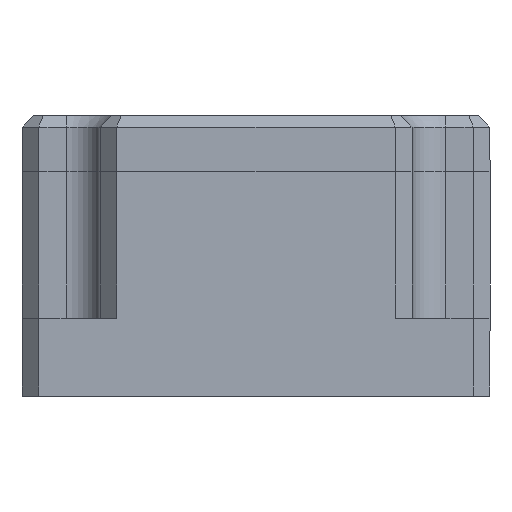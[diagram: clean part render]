
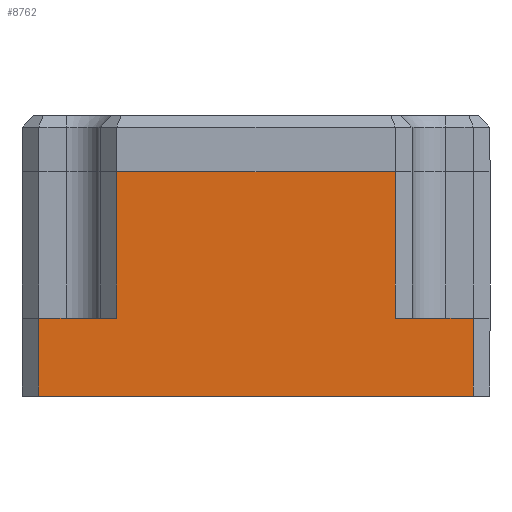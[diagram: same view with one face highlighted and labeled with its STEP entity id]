
A CAD part, left-side view. The second image highlights one B-rep face of the part: STEP entity #8762.
In plain terms, the highlighted planar face has unit normal (-1, 0, 0) as drawn and (1, 0, 0) by its records, which use the part's own axes.
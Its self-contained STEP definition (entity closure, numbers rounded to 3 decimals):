
#127 = LINE ( 'NONE', #4457, #1010 ) ;
#513 = AXIS2_PLACEMENT_3D ( 'NONE', #7181, #1451, #4419 ) ;
#556 = DIRECTION ( 'NONE',  ( 0., 1., 0. ) ) ;
#588 = PLANE ( 'NONE',  #513 ) ;
#683 = EDGE_CURVE ( 'NONE', #5354, #10595, #5945, .T. ) ;
#878 = CARTESIAN_POINT ( 'NONE',  ( 25., 19.333, 3. ) ) ;
#894 = CARTESIAN_POINT ( 'NONE',  ( 25., -21.167, -4. ) ) ;
#1010 = VECTOR ( 'NONE', #8967, 1000. ) ;
#1282 = CARTESIAN_POINT ( 'NONE',  ( 25., 19.333, -18. ) ) ;
#1451 = DIRECTION ( 'NONE',  ( 1., 0., 0. ) ) ;
#1533 = ORIENTED_EDGE ( 'NONE', *, *, #1952, .F. ) ;
#1856 = CARTESIAN_POINT ( 'NONE',  ( 25., 12.333, -17.15 ) ) ;
#1952 = EDGE_CURVE ( 'NONE', #10861, #8589, #11964, .T. ) ;
#1959 = LINE ( 'NONE', #1282, #2846 ) ;
#1996 = ORIENTED_EDGE ( 'NONE', *, *, #2735, .T. ) ;
#2184 = ORIENTED_EDGE ( 'NONE', *, *, #9001, .F. ) ;
#2267 = ORIENTED_EDGE ( 'NONE', *, *, #12409, .F. ) ;
#2735 = EDGE_CURVE ( 'NONE', #7942, #8589, #6804, .T. ) ;
#2846 = VECTOR ( 'NONE', #11815, 1000. ) ;
#2886 = DIRECTION ( 'NONE',  ( 0., -1., 0. ) ) ;
#2890 = DIRECTION ( 'NONE',  ( 0., 0., -1. ) ) ;
#3203 = CARTESIAN_POINT ( 'NONE',  ( 25., -19.667, 3. ) ) ;
#3401 = VECTOR ( 'NONE', #11754, 1000. ) ;
#4259 = CARTESIAN_POINT ( 'NONE',  ( 25., -21.167, 3. ) ) ;
#4263 = VECTOR ( 'NONE', #8158, 1000. ) ;
#4419 = DIRECTION ( 'NONE',  ( 0., 0., -1. ) ) ;
#4444 = ORIENTED_EDGE ( 'NONE', *, *, #11656, .T. ) ;
#4457 = CARTESIAN_POINT ( 'NONE',  ( 25., -12.667, -18. ) ) ;
#4481 = ORIENTED_EDGE ( 'NONE', *, *, #6663, .T. ) ;
#4500 = VECTOR ( 'NONE', #2886, 1000. ) ;
#5076 = CARTESIAN_POINT ( 'NONE',  ( 25., 19.333, -4. ) ) ;
#5125 = CARTESIAN_POINT ( 'NONE',  ( 25., 12.333, -4. ) ) ;
#5232 = EDGE_CURVE ( 'NONE', #10861, #10595, #1959, .T. ) ;
#5354 = VERTEX_POINT ( 'NONE', #3203 ) ;
#5566 = DIRECTION ( 'NONE',  ( 0., -1., 0. ) ) ;
#5945 = LINE ( 'NONE', #4259, #11812 ) ;
#5959 = CARTESIAN_POINT ( 'NONE',  ( 25., -12.667, -4. ) ) ;
#6147 = FACE_OUTER_BOUND ( 'NONE', #8959, .T. ) ;
#6205 = CARTESIAN_POINT ( 'NONE',  ( 25., 12.333, -4. ) ) ;
#6663 = EDGE_CURVE ( 'NONE', #5354, #7222, #8394, .T. ) ;
#6804 = LINE ( 'NONE', #6205, #4263 ) ;
#7018 = VECTOR ( 'NONE', #2890, 1000. ) ;
#7181 = CARTESIAN_POINT ( 'NONE',  ( 25., -21.167, -18. ) ) ;
#7222 = VERTEX_POINT ( 'NONE', #8491 ) ;
#7563 = CARTESIAN_POINT ( 'NONE',  ( 25., -19.667, -18. ) ) ;
#7942 = VERTEX_POINT ( 'NONE', #10608 ) ;
#8158 = DIRECTION ( 'NONE',  ( 0., 0., 1. ) ) ;
#8394 = LINE ( 'NONE', #7563, #7018 ) ;
#8472 = VERTEX_POINT ( 'NONE', #10740 ) ;
#8491 = CARTESIAN_POINT ( 'NONE',  ( 25., -19.667, -4. ) ) ;
#8589 = VERTEX_POINT ( 'NONE', #5125 ) ;
#8762 = ADVANCED_FACE ( 'NONE', ( #6147 ), #588, .T. ) ;
#8959 = EDGE_LOOP ( 'NONE', ( #4444, #2184, #1996, #1533, #10574, #10813, #4481, #2267 ) ) ;
#8967 = DIRECTION ( 'NONE',  ( 0., 0., -1. ) ) ;
#9001 = EDGE_CURVE ( 'NONE', #7942, #8472, #9478, .T. ) ;
#9257 = VECTOR ( 'NONE', #5566, 1000. ) ;
#9478 = LINE ( 'NONE', #1856, #4500 ) ;
#10574 = ORIENTED_EDGE ( 'NONE', *, *, #5232, .T. ) ;
#10595 = VERTEX_POINT ( 'NONE', #878 ) ;
#10608 = CARTESIAN_POINT ( 'NONE',  ( 25., 12.333, -17.15 ) ) ;
#10740 = CARTESIAN_POINT ( 'NONE',  ( 25., -12.667, -17.15 ) ) ;
#10784 = VERTEX_POINT ( 'NONE', #5959 ) ;
#10813 = ORIENTED_EDGE ( 'NONE', *, *, #683, .F. ) ;
#10861 = VERTEX_POINT ( 'NONE', #5076 ) ;
#11656 = EDGE_CURVE ( 'NONE', #10784, #8472, #127, .T. ) ;
#11754 = DIRECTION ( 'NONE',  ( 0., -1., 0. ) ) ;
#11812 = VECTOR ( 'NONE', #556, 1000. ) ;
#11815 = DIRECTION ( 'NONE',  ( 0., 0., 1. ) ) ;
#11921 = CARTESIAN_POINT ( 'NONE',  ( 25., 20.833, -4. ) ) ;
#11964 = LINE ( 'NONE', #11921, #3401 ) ;
#12380 = LINE ( 'NONE', #894, #9257 ) ;
#12409 = EDGE_CURVE ( 'NONE', #10784, #7222, #12380, .T. ) ;
